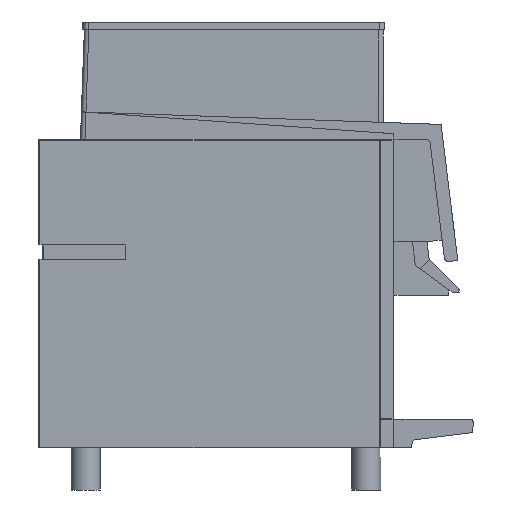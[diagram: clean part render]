
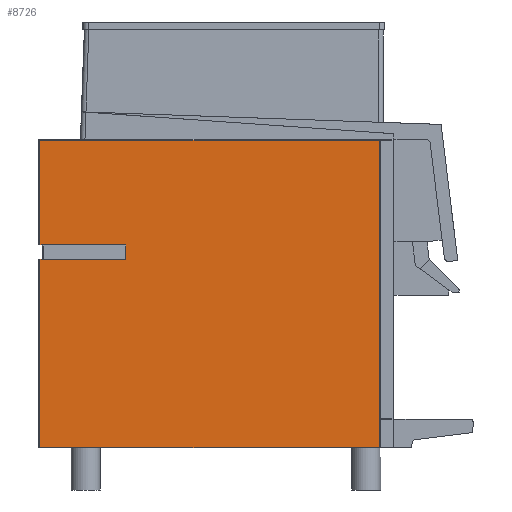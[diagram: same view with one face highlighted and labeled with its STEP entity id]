
A CAD part, left-side view. The second image highlights one B-rep face of the part: STEP entity #8726.
In plain terms, the highlighted planar face has unit normal (-1, 0, 0).
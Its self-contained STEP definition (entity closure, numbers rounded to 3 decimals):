
#880=ORIENTED_EDGE('',*,*,#2411,.F.);
#881=ORIENTED_EDGE('',*,*,#2654,.T.);
#882=ORIENTED_EDGE('',*,*,#2655,.T.);
#883=ORIENTED_EDGE('',*,*,#2656,.T.);
#884=ORIENTED_EDGE('',*,*,#2657,.F.);
#885=ORIENTED_EDGE('',*,*,#2658,.F.);
#886=ORIENTED_EDGE('',*,*,#2659,.F.);
#887=ORIENTED_EDGE('',*,*,#2660,.T.);
#888=ORIENTED_EDGE('',*,*,#2661,.T.);
#889=ORIENTED_EDGE('',*,*,#2662,.T.);
#2411=EDGE_CURVE('',#3316,#3317,#3916,.T.);
#2654=EDGE_CURVE('',#3316,#3508,#4096,.T.);
#2655=EDGE_CURVE('',#3508,#3509,#4097,.F.);
#2656=EDGE_CURVE('',#3509,#3510,#4098,.F.);
#2657=EDGE_CURVE('',#3511,#3510,#4099,.T.);
#2658=EDGE_CURVE('',#3512,#3511,#4100,.T.);
#2659=EDGE_CURVE('',#3513,#3512,#4101,.T.);
#2660=EDGE_CURVE('',#3513,#3514,#4102,.T.);
#2661=EDGE_CURVE('',#3514,#3515,#4103,.T.);
#2662=EDGE_CURVE('',#3515,#3317,#4104,.F.);
#3316=VERTEX_POINT('',#11731);
#3317=VERTEX_POINT('',#11733);
#3508=VERTEX_POINT('',#12208);
#3509=VERTEX_POINT('',#12210);
#3510=VERTEX_POINT('',#12212);
#3511=VERTEX_POINT('',#12214);
#3512=VERTEX_POINT('',#12216);
#3513=VERTEX_POINT('',#12218);
#3514=VERTEX_POINT('',#12220);
#3515=VERTEX_POINT('',#12222);
#3916=LINE('',#11732,#4638);
#4096=LINE('',#12207,#4818);
#4097=LINE('',#12209,#4819);
#4098=LINE('',#12211,#4820);
#4099=LINE('',#12213,#4821);
#4100=LINE('',#12215,#4822);
#4101=LINE('',#12217,#4823);
#4102=LINE('',#12219,#4824);
#4103=LINE('',#12221,#4825);
#4104=LINE('',#12223,#4826);
#4638=VECTOR('',#9825,1000.);
#4818=VECTOR('',#10213,1000.);
#4819=VECTOR('',#10214,1000.);
#4820=VECTOR('',#10215,1000.);
#4821=VECTOR('',#10216,1000.);
#4822=VECTOR('',#10217,1000.);
#4823=VECTOR('',#10218,1000.);
#4824=VECTOR('',#10219,1000.);
#4825=VECTOR('',#10220,1000.);
#4826=VECTOR('',#10221,1000.);
#5307=EDGE_LOOP('',(#880,#881,#882,#883,#884,#885,#886,#887,#888,#889));
#5681=FACE_BOUND('',#5307,.T.);
#6032=PLANE('',#9174);
#8726=ADVANCED_FACE('',(#5681),#6032,.F.);
#9174=AXIS2_PLACEMENT_3D('',#12206,#10211,#10212);
#9825=DIRECTION('',(0.,1.,0.));
#10211=DIRECTION('',(1.,0.,0.));
#10212=DIRECTION('',(0.,1.,0.));
#10213=DIRECTION('',(0.,0.,1.));
#10214=DIRECTION('',(0.,-1.,0.));
#10215=DIRECTION('',(0.,0.,1.));
#10216=DIRECTION('',(0.,1.,0.));
#10217=DIRECTION('',(0.,1.,0.));
#10218=DIRECTION('',(0.,0.,1.));
#10219=DIRECTION('',(0.,1.,0.));
#10220=DIRECTION('',(0.,1.,0.));
#10221=DIRECTION('',(0.,0.,1.));
#11731=CARTESIAN_POINT('',(-440.,-470.,0.));
#11732=CARTESIAN_POINT('',(-440.,-490.,0.));
#11733=CARTESIAN_POINT('',(-440.,-1.2,0.));
#12206=CARTESIAN_POINT('',(-440.,0.,0.));
#12207=CARTESIAN_POINT('',(-440.,-470.,420.5));
#12208=CARTESIAN_POINT('',(-440.,-470.,424.8));
#12209=CARTESIAN_POINT('',(-440.,0.,424.8));
#12210=CARTESIAN_POINT('',(-440.,-1.2,424.8));
#12211=CARTESIAN_POINT('',(-440.,-1.2,0.));
#12212=CARTESIAN_POINT('',(-440.,-1.2,280.));
#12213=CARTESIAN_POINT('',(-440.,-5.,280.));
#12214=CARTESIAN_POINT('',(-440.,-5.133,280.));
#12215=CARTESIAN_POINT('',(-440.,-120.,280.));
#12216=CARTESIAN_POINT('',(-440.,-120.,280.));
#12217=CARTESIAN_POINT('',(-440.,-120.,260.));
#12218=CARTESIAN_POINT('',(-440.,-120.,260.));
#12219=CARTESIAN_POINT('',(-440.,-120.,260.));
#12220=CARTESIAN_POINT('',(-440.,-5.133,260.));
#12221=CARTESIAN_POINT('',(-440.,-5.,260.));
#12222=CARTESIAN_POINT('',(-440.,-1.2,260.));
#12223=CARTESIAN_POINT('',(-440.,-1.2,0.));
